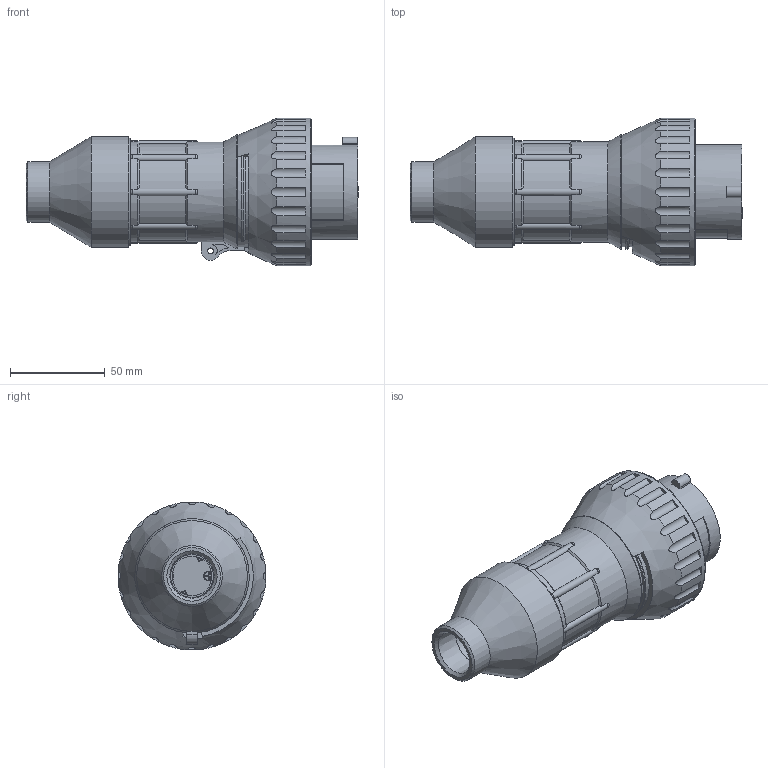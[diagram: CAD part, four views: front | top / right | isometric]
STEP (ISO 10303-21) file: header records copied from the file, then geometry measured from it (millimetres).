
FILE_DESCRIPTION((''),'2;1');
FILE_NAME('\\192.168.5.25\cortem_klient\INVENTOR БАЗА МОДЕЛЕЙ\Актуальная база моделей для отдела продаж\Вилки, розетки\ВГМЕ-16-250-3.stp','2020-09-07T15:33:57',('K.S.Bezzubikov'),(''),'Autodesk Inventor 2012','Autodesk Inventor 2012','');
FILE_SCHEMA(('AUTOMOTIVE_DESIGN { 1 0 10303 214 1 1 1 1 }'));
Length unit declared in the file: millimetre
Products named in the file (1): ВГМЕ-16-250-3_Внешний контур_1
Bounding box: 175.2 x 78 x 78 mm (x, y, z)
Volume: 188636 mm3; surface area: 131862.7 mm2
Topology: 2 solids, 2 shells, 1229 faces, 3558 edges, 2347 vertices
Faces by surface type: plane 709, cylinder 268, bspline 126, cone 92, torus 34
Full cylindrical faces by diameter (mm): 2 x2, 2.8 x14, 2.85 x4, 3 x3, 3.4 x2, 4 x2, 4.3 x4, 4.5 x1, 4.95 x3, 5.1 x1, 5.7 x2, 6 x6, 6.85 x2, 6.95 x1, 7 x2, 7.4 x3, 8 x3, 8.5 x3, 9.35 x1, 10 x1, 21 x1, 22.631 x1, 24 x1, 30.5 x1, 30.8 x1, 32 x2, 48.2 x1, 49.3 x1, 50 x1, 52.9 x2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
Entity records: 45820 total; most frequent: CARTESIAN_POINT 13980, ORIENTED_EDGE 6674, DIRECTION 5907, EDGE_CURVE 3337, VERTEX_POINT 2248, AXIS2_PLACEMENT_3D 1992, VECTOR 1923, LINE 1923
